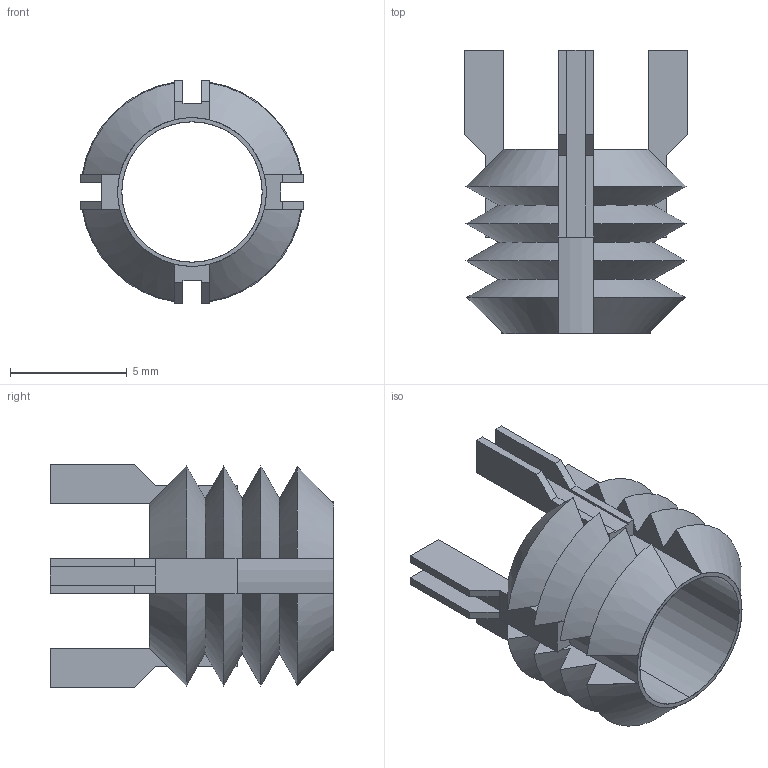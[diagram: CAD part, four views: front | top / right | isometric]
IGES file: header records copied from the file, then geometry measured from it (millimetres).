
Start section: SolidWorks IGES file using analytic representation for surfaces
Global section: file name: C:\Users\IanO\Desktop\TR1530_v2\TR1530_v2_20230501_IGES\TR1530.66643.igs; native system: SolidWorks 2019; preprocessor: SolidWorks 2019; author: IanO; date: 230502.140330; units: millimetre
Bounding box: 9.57 x 12.11 x 9.57 mm (x, y, z)
Surface area: 664.7 mm2 (no closed solid volume)
Topology: 0 solids, 0 shells, 138 faces, 816 edges, 816 vertices
Faces by surface type: bspline 100, revolution 38
